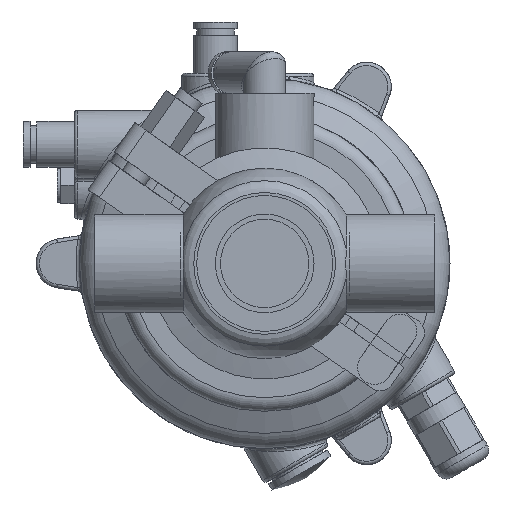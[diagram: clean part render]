
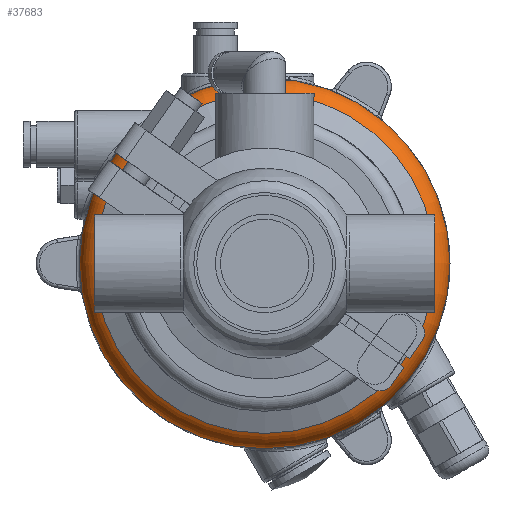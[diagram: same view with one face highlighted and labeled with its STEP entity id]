
A CAD part, front view. The second image highlights one B-rep face of the part: STEP entity #37683.
In plain terms, the highlighted toroidal (fillet/blend) face has major radius 46.5 mm and minor radius 8 mm.
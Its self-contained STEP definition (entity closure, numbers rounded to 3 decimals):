
#1 = CARTESIAN_POINT ( 'NONE',  ( 0., 14.022, 0. ) ) ;
#296 = FACE_OUTER_BOUND ( 'NONE', #28318, .T. ) ;
#971 = TOROIDAL_SURFACE ( 'NONE', #12639, 46.5, 8. ) ;
#2295 = AXIS2_PLACEMENT_3D ( 'NONE', #11051, #24544, #52261 ) ;
#6384 = CIRCLE ( 'NONE', #44401, 54.5 ) ;
#11051 = CARTESIAN_POINT ( 'NONE',  ( 0., 6.832, 0. ) ) ;
#12055 = CARTESIAN_POINT ( 'NONE',  ( 0., 14.022, -54.5 ) ) ;
#12639 = AXIS2_PLACEMENT_3D ( 'NONE', #33316, #47004, #22962 ) ;
#12966 = CARTESIAN_POINT ( 'NONE',  ( 0., 6.832, -50.007 ) ) ;
#21263 = VERTEX_POINT ( 'NONE', #12055 ) ;
#22962 = DIRECTION ( 'NONE',  ( 0., 0., -1. ) ) ;
#23567 = FACE_OUTER_BOUND ( 'NONE', #36388, .T. ) ;
#24544 = DIRECTION ( 'NONE',  ( 0., -1., 0. ) ) ;
#25213 = EDGE_CURVE ( 'NONE', #21263, #21263, #6384, .T. ) ;
#26127 = VERTEX_POINT ( 'NONE', #12966 ) ;
#28318 = EDGE_LOOP ( 'NONE', ( #49127 ) ) ;
#30851 = EDGE_CURVE ( 'NONE', #26127, #26127, #58893, .T. ) ;
#33316 = CARTESIAN_POINT ( 'NONE',  ( 0., 14.022, 0. ) ) ;
#36388 = EDGE_LOOP ( 'NONE', ( #40679 ) ) ;
#37683 = ADVANCED_FACE ( 'NONE', ( #23567, #296 ), #971, .T. ) ;
#40679 = ORIENTED_EDGE ( 'NONE', *, *, #25213, .T. ) ;
#44401 = AXIS2_PLACEMENT_3D ( 'NONE', #1, #46093, #50391 ) ;
#46093 = DIRECTION ( 'NONE',  ( 0., -1., 0. ) ) ;
#47004 = DIRECTION ( 'NONE',  ( 0., -1., 0. ) ) ;
#49127 = ORIENTED_EDGE ( 'NONE', *, *, #30851, .F. ) ;
#50391 = DIRECTION ( 'NONE',  ( 0., 0., -1. ) ) ;
#52261 = DIRECTION ( 'NONE',  ( 0., 0., -1. ) ) ;
#58893 = CIRCLE ( 'NONE', #2295, 50.007 ) ;
